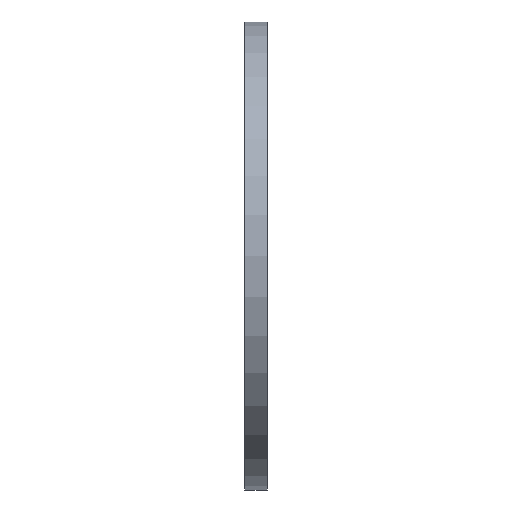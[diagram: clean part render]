
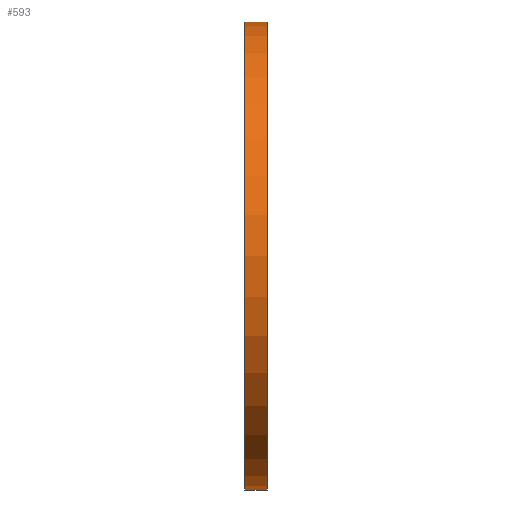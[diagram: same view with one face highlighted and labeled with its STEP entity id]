
A CAD part, left-side view. The second image highlights one B-rep face of the part: STEP entity #593.
In plain terms, the highlighted cylindrical face has radius 212.5 mm (diameter 425 mm), a partial arc.
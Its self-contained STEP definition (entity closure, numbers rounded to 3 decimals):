
#108 = AXIS2_PLACEMENT_3D ( 'NONE', #1168, #316, #502 ) ;
#119 = ORIENTED_EDGE ( 'NONE', *, *, #1231, .F. ) ;
#196 = CARTESIAN_POINT ( 'NONE',  ( 0., 0., 212.5 ) ) ;
#229 = CYLINDRICAL_SURFACE ( 'NONE', #1002, 212.5 ) ;
#273 = DIRECTION ( 'NONE',  ( 0., -1., 0. ) ) ;
#316 = DIRECTION ( 'NONE',  ( 0., -1., 0. ) ) ;
#348 = CARTESIAN_POINT ( 'NONE',  ( 0., 0., -212.5 ) ) ;
#407 = EDGE_LOOP ( 'NONE', ( #119, #413, #819, #753 ) ) ;
#413 = ORIENTED_EDGE ( 'NONE', *, *, #822, .T. ) ;
#491 = VERTEX_POINT ( 'NONE', #790 ) ;
#502 = DIRECTION ( 'NONE',  ( 0., 0., -1. ) ) ;
#517 = CARTESIAN_POINT ( 'NONE',  ( 0., 20., 0. ) ) ;
#528 = VECTOR ( 'NONE', #1186, 1000. ) ;
#593 = ADVANCED_FACE ( 'NONE', ( #708 ), #229, .T. ) ;
#608 = VECTOR ( 'NONE', #273, 1000. ) ;
#611 = DIRECTION ( 'NONE',  ( 0., -1., 0. ) ) ;
#618 = CARTESIAN_POINT ( 'NONE',  ( 0., 20., -212.5 ) ) ;
#644 = AXIS2_PLACEMENT_3D ( 'NONE', #517, #687, #973 ) ;
#687 = DIRECTION ( 'NONE',  ( 0., -1., 0. ) ) ;
#707 = CIRCLE ( 'NONE', #644, 212.5 ) ;
#708 = FACE_OUTER_BOUND ( 'NONE', #407, .T. ) ;
#751 = LINE ( 'NONE', #196, #608 ) ;
#753 = ORIENTED_EDGE ( 'NONE', *, *, #828, .F. ) ;
#790 = CARTESIAN_POINT ( 'NONE',  ( 0., 0., -212.5 ) ) ;
#811 = LINE ( 'NONE', #348, #528 ) ;
#819 = ORIENTED_EDGE ( 'NONE', *, *, #957, .T. ) ;
#822 = EDGE_CURVE ( 'NONE', #1178, #953, #707, .T. ) ;
#828 = EDGE_CURVE ( 'NONE', #865, #491, #1004, .T. ) ;
#865 = VERTEX_POINT ( 'NONE', #886 ) ;
#886 = CARTESIAN_POINT ( 'NONE',  ( 0., 0., 212.5 ) ) ;
#905 = DIRECTION ( 'NONE',  ( 0., 0., -1. ) ) ;
#953 = VERTEX_POINT ( 'NONE', #618 ) ;
#957 = EDGE_CURVE ( 'NONE', #953, #491, #811, .T. ) ;
#973 = DIRECTION ( 'NONE',  ( 0., 0., -1. ) ) ;
#1002 = AXIS2_PLACEMENT_3D ( 'NONE', #1005, #611, #905 ) ;
#1004 = CIRCLE ( 'NONE', #108, 212.5 ) ;
#1005 = CARTESIAN_POINT ( 'NONE',  ( 0., 0., 0. ) ) ;
#1168 = CARTESIAN_POINT ( 'NONE',  ( 0., 0., 0. ) ) ;
#1178 = VERTEX_POINT ( 'NONE', #1214 ) ;
#1186 = DIRECTION ( 'NONE',  ( 0., -1., 0. ) ) ;
#1214 = CARTESIAN_POINT ( 'NONE',  ( 0., 20., 212.5 ) ) ;
#1231 = EDGE_CURVE ( 'NONE', #1178, #865, #751, .T. ) ;
